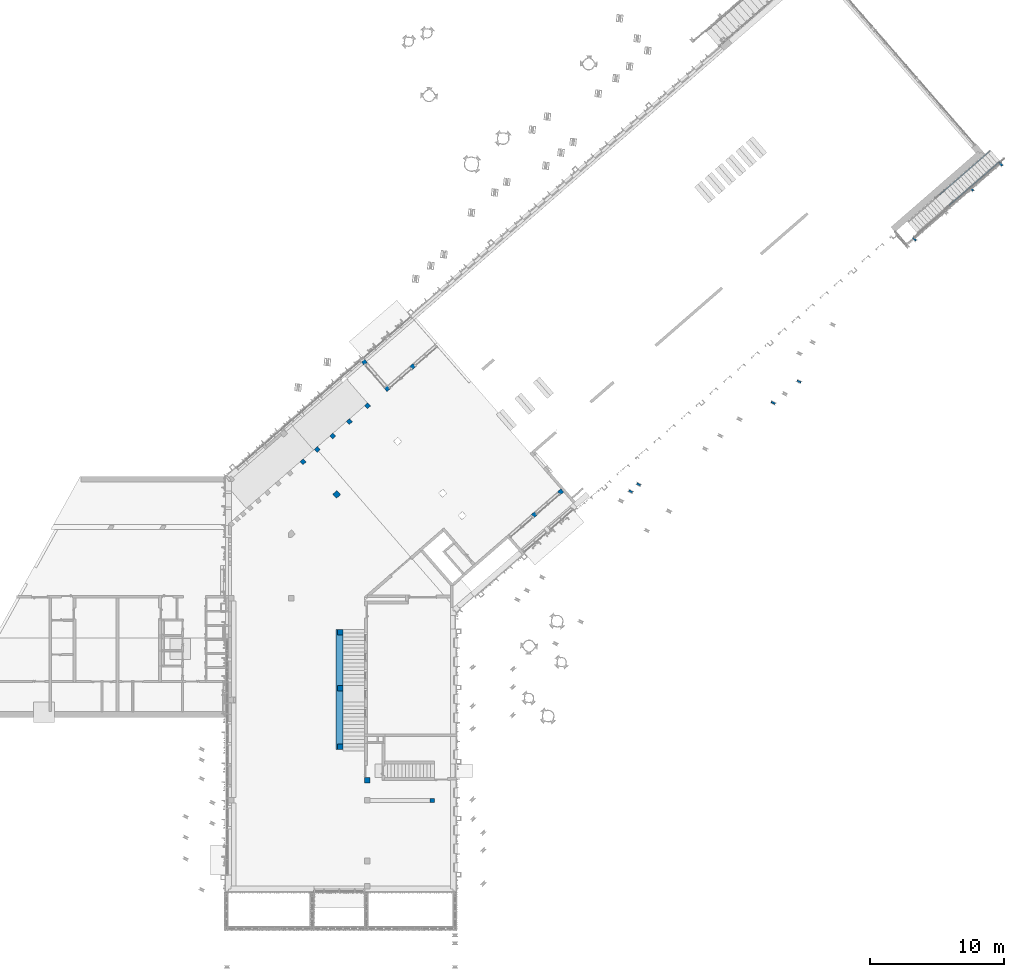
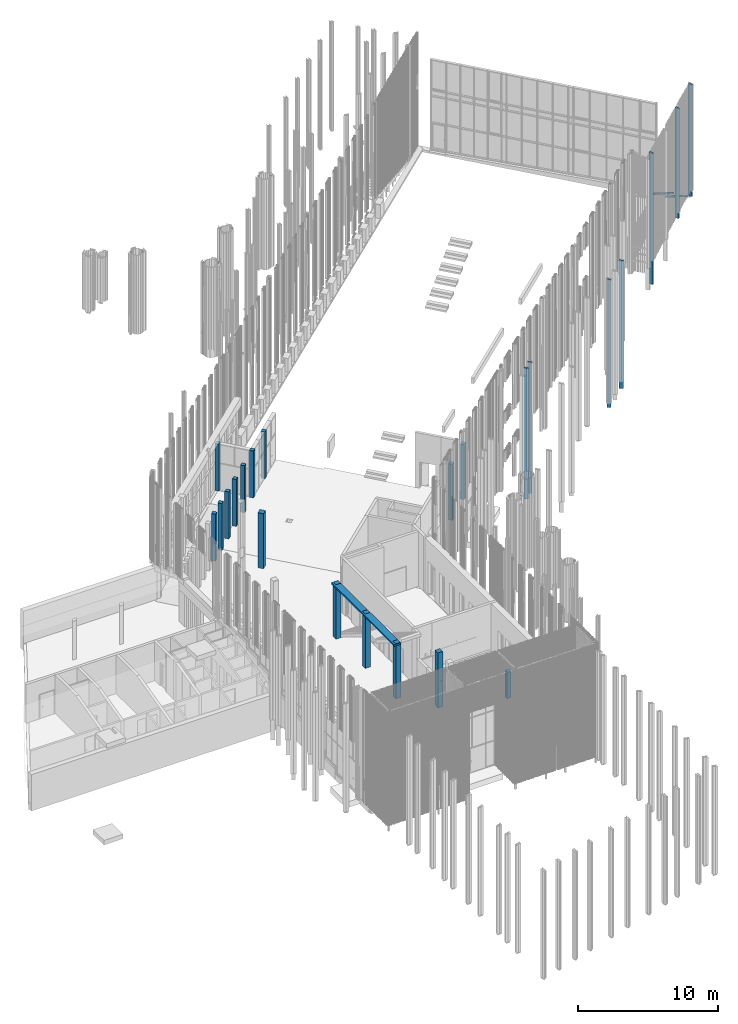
# One storey, part 77 of 390: 23 columns, 3 beams.
"""IFC2X3 building model written with IfcOpenShell, lengths in millimetres."""

from ifc_helpers import new_model, entity, si_unit, converted_unit, derived_unit, money_unit, direction, frame, origin_with_axes, place, context, subcontext, project, spatial, faceted_brep, material, material_list, type_object, element, save


model = new_model("IFC2X3")

# Units and contexts
model_context = context("Model", 3, precision=1e-05, world=origin_with_axes(), true_north=direction((0.0, 1.0)))
body_context = subcontext(model_context, "Body", "Model", "MODEL_VIEW")
ifc_project = project(units=[si_unit("LENGTHUNIT", "METRE", prefix="MILLI"), si_unit("AREAUNIT", "SQUARE_METRE"), si_unit("VOLUMEUNIT", "CUBIC_METRE"), converted_unit("PLANEANGLEUNIT", "DEGREE", entity("IfcPlaneAngleMeasure", 0.0174532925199), si_unit("PLANEANGLEUNIT", "RADIAN"), dimensions=[0, 0, 0, 0, 0, 0, 0]), si_unit("SOLIDANGLEUNIT", "STERADIAN"), money_unit("EUR"), converted_unit("TIMEUNIT", "Year", entity("IfcTimeMeasure", 31556926.0), si_unit("TIMEUNIT", "SECOND"), dimensions=[0, 0, 1, 0, 0, 0, 0]), si_unit("MASSUNIT", "GRAM", prefix="KILO"), si_unit("THERMODYNAMICTEMPERATUREUNIT", "DEGREE_CELSIUS"), si_unit("LUMINOUSINTENSITYUNIT", "LUMEN"), si_unit("ENERGYUNIT", "JOULE", prefix="MEGA"), derived_unit("THERMALCONDUCTANCEUNIT", [(si_unit("POWERUNIT", "WATT"), 1), (si_unit("LENGTHUNIT", "METRE"), -1), (si_unit("THERMODYNAMICTEMPERATUREUNIT", "KELVIN"), -1)]), derived_unit("SPECIFICHEATCAPACITYUNIT", [(si_unit("ENERGYUNIT", "JOULE"), 1), (si_unit("MASSUNIT", "GRAM", prefix="KILO"), -1), (si_unit("THERMODYNAMICTEMPERATUREUNIT", "KELVIN"), -1)]), derived_unit("MASSDENSITYUNIT", [(si_unit("MASSUNIT", "GRAM", prefix="KILO"), 1), (si_unit("VOLUMEUNIT", "CUBIC_METRE"), -1)])], contexts=[model_context])

# Site, building, storey
site_placement = place(None, origin_with_axes())
site = spatial("IfcSite", under=ifc_project, at=site_placement, Name="Site", CompositionType="ELEMENT")
building_placement = place(site_placement, origin_with_axes())
building = spatial("IfcBuilding", under=site, at=building_placement, Name="Building", CompositionType="ELEMENT")
storey_placement = place(building_placement, origin_with_axes())
storey = spatial("IfcBuildingStorey", under=building, at=storey_placement, Name="1 korrus", CompositionType="ELEMENT", Elevation=0.0)

# Columns
ifc_material_1 = material(Name="Betoon - Konstuktsioon")
ifc_material_2 = material(Name="Krohv - Lubjakivi")
ifc_material_list_1 = material_list([ifc_material_1, ifc_material_2])
column_type_1 = type_object("IfcColumnType", Name="Post", PredefinedType="NOTDEFINED")
column_1_placement = place(storey_placement, frame((132867.171022, 84923.9295875, 0.0), z_axis=(0.0, 0.0, 1.0), x_axis=(0.65605902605, -0.754709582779, 0.0)))
element("IfcColumn", 1, at=column_1_placement, inside=storey, type_object=column_type_1, material=ifc_material_list_1, Name="Betoon - Konstuktsioon", ObjectType="Betoon - Konstuktsioon 300 x 300", context=body_context, shape_type="Brep", body=[
    faceted_brep([(-150.0, -150.0, 0.0), (150.0, -150.0, 0.0), (150.0, -150.0, 4100.0), (-150.0, -150.0, 4100.0), (-150.0, 150.0, 0.0), (150.0, 150.0, 0.0), (150.0, 150.0, 4100.0), (-150.0, 150.0, 4100.0)], [[[0, 1, 2, 3]], [[0, 4, 5, 1]], [[1, 5, 6, 2]], [[3, 2, 6, 7]], [[4, 0, 3, 7]], [[5, 4, 7, 6]]]),
    faceted_brep([(-160.0, -160.0, 0.0), (160.0, -160.0, 0.0), (160.0, -160.0, 4100.0), (-160.0, -160.0, 4100.0), (-160.0, 160.0, 0.0), (160.0, 160.0, 0.0), (-150.0, -150.0, 0.0), (150.0, -150.0, 0.0), (150.0, 150.0, 0.0), (-150.0, 150.0, 0.0), (160.0, 160.0, 4100.0), (-160.0, 160.0, 4100.0), (-150.0, -150.0, 4100.0), (-150.0, 150.0, 4100.0), (150.0, 150.0, 4100.0), (150.0, -150.0, 4100.0)], [[[0, 1, 2, 3]], [[0, 4, 5, 1], [6, 7, 8, 9]], [[1, 5, 10, 2]], [[3, 2, 10, 11], [12, 13, 14, 15]], [[4, 0, 3, 11]], [[5, 4, 11, 10]], [[7, 6, 12, 15]], [[8, 7, 15, 14]], [[9, 8, 14, 13]], [[6, 9, 13, 12]]]),
])
column_2_placement = place(storey_placement, frame((131069.999995, 60550.0000176, -20.0), z_axis=(0.0, 0.0, 1.0), x_axis=(1.0, -8.97950352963e-09, 0.0)))
element("IfcColumn", 2, at=column_2_placement, inside=storey, type_object=column_type_1, material=ifc_material_list_1, Name="Betoon - Konstuktsioon", ObjectType="Betoon - Konstuktsioon 400 x 400", context=body_context, shape_type="Brep", body=[
    faceted_brep([(-199.999998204, -200.000001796, 0.0), (200.000001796, -199.999998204, 0.0), (200.000001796, -199.999998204, 4765.0), (-199.999998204, -200.000001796, 4765.0), (-200.000001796, 199.999998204, 0.0), (199.999998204, 200.000001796, 0.0), (199.999998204, 200.000001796, 4765.0), (-200.000001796, 199.999998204, 4765.0)], [[[0, 1, 2, 3]], [[0, 4, 5, 1]], [[1, 5, 6, 2]], [[3, 2, 6, 7]], [[4, 0, 3, 7]], [[5, 4, 7, 6]]]),
    faceted_brep([(200.000001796, -199.999998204, 4624.99999821), (199.999998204, 200.000001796, 4624.99999821), (199.999998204, 200.000001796, 0.0), (200.000001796, -199.999998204, 0.0), (209.999963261, -209.999998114, 4624.99999821), (209.999963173, 210.000001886, 4624.99999821), (-210.000001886, 209.999998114, 4624.99999821), (-209.999998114, -210.000001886, 4624.99999821), (-200.000001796, 199.999998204, 4624.99999821), (-199.999998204, -200.000001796, 4624.99999821), (-200.000001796, 199.999998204, 0.0), (209.999998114, 210.000001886, 0.0), (210.000001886, -209.999998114, 0.0), (-209.999998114, -210.000001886, 0.0), (-210.000001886, 209.999998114, 0.0), (-199.999998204, -200.000001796, 0.0)], [[[0, 1, 2, 3]], [[4, 5, 6, 7], [8, 1, 0, 9]], [[1, 8, 10, 2]], [[11, 12, 13, 14], [2, 10, 15, 3]], [[9, 0, 3, 15]], [[5, 4, 12, 11]], [[6, 5, 11, 14]], [[7, 6, 14, 13]], [[4, 7, 13, 12]], [[8, 9, 15, 10]]]),
])
column_3_placement = place(storey_placement, frame((131069.999918, 56190.0000161, -20.0), z_axis=(0.0, 0.0, 1.0), x_axis=(1.0, -8.97950352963e-09, 0.0)))
element("IfcColumn", 3, at=column_3_placement, inside=storey, type_object=column_type_1, material=ifc_material_list_1, Name="Betoon - Konstuktsioon", ObjectType="Betoon - Konstuktsioon 400 x 400", context=body_context, shape_type="Brep", body=[
    faceted_brep([(-199.999998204, -200.000001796, 0.0), (200.000001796, -199.999998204, 0.0), (200.000001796, -199.999998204, 4800.0), (-199.999998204, -200.000001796, 4800.0), (-200.000001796, 199.999998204, 0.0), (199.999998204, 200.000001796, 0.0), (199.999998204, 200.000001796, 4800.0), (-200.000001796, 199.999998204, 4800.0)], [[[0, 1, 2, 3]], [[0, 4, 5, 1]], [[1, 5, 6, 2]], [[3, 2, 6, 7]], [[4, 0, 3, 7]], [[5, 4, 7, 6]]]),
    faceted_brep([(200.000001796, -199.999998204, 4624.99999821), (199.999998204, 200.000001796, 4624.99999821), (199.999998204, 200.000001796, 0.0), (200.000001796, -199.999998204, 0.0), (210.000001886, -210.000002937, 4624.99999821), (210.000001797, 210.000001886, 4624.99999821), (-210.000001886, 209.999998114, 4624.99999821), (-209.999998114, -210.000003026, 4624.99999821), (-200.000001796, 199.999998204, 4624.99999821), (-199.999998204, -200.000001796, 4624.99999821), (-200.000001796, 199.999998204, 0.0), (209.999998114, 210.000001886, 0.0), (210.000001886, -209.999998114, 0.0), (-209.999998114, -210.000001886, 0.0), (-210.000001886, 209.999998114, 0.0), (-199.999998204, -200.000001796, 0.0)], [[[0, 1, 2, 3]], [[4, 5, 6, 7], [8, 1, 0, 9]], [[1, 8, 10, 2]], [[11, 12, 13, 14], [2, 10, 15, 3]], [[9, 0, 3, 15]], [[5, 4, 12, 11]], [[6, 5, 11, 14]], [[7, 6, 14, 13]], [[4, 7, 13, 12]], [[8, 9, 15, 10]]]),
])
column_4_placement = place(storey_placement, frame((131069.999995, 64750.0000176, -20.0), z_axis=(0.0, 0.0, 1.0), x_axis=(1.0, -8.97950352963e-09, 0.0)))
element("IfcColumn", 4, at=column_4_placement, inside=storey, type_object=column_type_1, material=ifc_material_list_1, Name="Betoon - Konstuktsioon", ObjectType="Betoon - Konstuktsioon 400 x 400", context=body_context, shape_type="Brep", body=[
    faceted_brep([(-199.999998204, -200.000001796, 0.0), (200.000001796, -199.999998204, 0.0), (200.000001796, -199.999998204, 4764.99999821), (-199.999998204, -200.000001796, 4764.99999821), (-200.000001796, 199.999998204, 0.0), (199.999998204, 200.000001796, 0.0), (199.999998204, 200.000001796, 4764.99999821), (-200.000001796, 199.999998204, 4764.99999821)], [[[0, 1, 2, 3]], [[0, 4, 5, 1]], [[1, 5, 6, 2]], [[3, 2, 6, 7]], [[4, 0, 3, 7]], [[5, 4, 7, 6]]]),
    faceted_brep([(200.000001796, -199.999998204, 4624.99999821), (199.999998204, 200.000001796, 4624.99999821), (199.999998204, 200.000001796, 0.0), (200.000001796, -199.999998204, 0.0), (210.000000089, -209.999998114, 4624.99999821), (210.0, 210.000000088, 4624.99999821), (-210.000001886, 210.0, 4624.99999821), (-209.999998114, -210.000001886, 4624.99999821), (-200.000001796, 199.999998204, 4624.99999821), (-199.999998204, -200.000001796, 4624.99999821), (-200.000001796, 199.999998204, 0.0), (210.000001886, -209.999998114, 0.0), (-209.999998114, -210.000001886, 0.0), (-210.000001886, 209.999998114, 0.0), (209.999998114, 210.000001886, 0.0), (-199.999998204, -200.000001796, 0.0)], [[[0, 1, 2, 3]], [[4, 5, 6, 7], [8, 1, 0, 9]], [[1, 8, 10, 2]], [[11, 12, 13, 14], [10, 15, 3, 2]], [[9, 0, 3, 15]], [[5, 4, 11, 14]], [[6, 5, 14, 13]], [[7, 6, 13, 12]], [[4, 7, 12, 11]], [[8, 9, 15, 10]]]),
])
column_5_placement = place(storey_placement, frame((147542.139778, 75248.2153569, 0.0), z_axis=(0.0, 0.0, 1.0), x_axis=(0.65605902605, -0.754709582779, 0.0)))
element("IfcColumn", 5, at=column_5_placement, inside=storey, type_object=column_type_1, material=ifc_material_list_1, Name="Betoon - Konstuktsioon", ObjectType="Betoon - Konstuktsioon 300 x 325", context=body_context, shape_type="Brep", body=[
    faceted_brep([(-150.0, -162.5, 0.0), (150.0, -162.5, 0.0), (150.0, -162.5, 4800.0), (-150.0, -162.5, 4800.0), (-150.0, 162.5, 0.0), (150.0, 162.5, 0.0), (150.0, 162.5, 4800.0), (-150.0, 162.5, 4800.0)], [[[0, 1, 2, 3]], [[0, 4, 5, 1]], [[1, 5, 6, 2]], [[3, 2, 6, 7]], [[4, 0, 3, 7]], [[5, 4, 7, 6]]]),
    faceted_brep([(-150.0, -162.5, 0.0), (-150.0, 162.500111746, 0.0), (-150.0, 162.500111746, 4800.0), (-150.0, -162.5, 4800.0), (150.0, -162.5, 0.0), (150.0, 162.500112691, 0.0), (160.0, 162.500112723, 0.0), (160.0, -172.5, 0.0), (-160.0, -172.5, 0.0), (-160.0, 162.500111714, 0.0), (-160.0, 162.500111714, 4800.0), (160.0, -172.5, 4800.0), (160.0, 162.500112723, 4800.0), (150.0, 162.500112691, 4800.0), (150.0, -162.5, 4800.0), (-160.0, -172.5, 4800.0)], [[[0, 1, 2, 3]], [[4, 5, 6, 7, 8, 9, 1, 0]], [[9, 10, 2, 1]], [[11, 12, 13, 14, 3, 2, 10, 15]], [[3, 14, 4, 0]], [[14, 13, 5, 4]], [[5, 13, 12, 6]], [[7, 6, 12, 11]], [[11, 15, 8, 7]], [[15, 10, 9, 8]]]),
])
column_6_placement = place(storey_placement, frame((130791.570373, 75050.3080309, -20.0), z_axis=(0.0, 0.0, 1.0), x_axis=(0.65605902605, -0.754709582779, 0.0)))
element("IfcColumn", 6, at=column_6_placement, inside=storey, type_object=column_type_1, material=ifc_material_list_1, Name="Betoon - Konstuktsioon", ObjectType="Betoon - Konstuktsioon 400 x 400", context=body_context, shape_type="Brep", body=[
    faceted_brep([(-200.0, -200.0, 0.0), (200.0, -200.0, 0.0), (200.0, -200.0, 4820.0), (-200.0, -200.0, 4820.0), (-200.0, 200.0, 0.0), (200.0, 200.0, 0.0), (200.0, 200.0, 4820.0), (-200.0, 200.0, 4820.0)], [[[0, 1, 2, 3]], [[0, 4, 5, 1]], [[1, 5, 6, 2]], [[3, 2, 6, 7]], [[4, 0, 3, 7]], [[5, 4, 7, 6]]]),
    faceted_brep([(-210.0, -210.0, 4820.0), (-210.0, -210.0, 0.0), (210.0, -210.0, 0.0), (210.0, -210.0, 4820.0), (-210.0, 210.0, 4820.0), (-210.0, 210.0, 0.0), (210.0, 210.0, 0.0), (-200.0, 200.0, 0.0), (-200.0, -200.0, 0.0), (200.0, -200.0, 0.0), (200.0, 200.0, 0.0), (210.0, 210.0, 4820.0), (200.0, -200.0, 4820.0), (-200.0, -200.0, 4820.0), (-200.0, 200.0, 4820.0), (200.0, 200.0, 4820.0)], [[[0, 1, 2, 3]], [[4, 5, 1, 0]], [[2, 1, 5, 6], [7, 8, 9, 10]], [[3, 2, 6, 11]], [[4, 0, 3, 11], [12, 13, 14, 15]], [[11, 6, 5, 4]], [[13, 8, 7, 14]], [[12, 9, 8, 13]], [[15, 10, 9, 12]], [[14, 7, 10, 15]]]),
])
column_7_placement = place(storey_placement, frame((137930.0, 52170.000007, -20.0), z_axis=(0.0, 0.0, 1.0), x_axis=(1.0, -8.97950352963e-09, 0.0)))
element("IfcColumn", 7, at=column_7_placement, inside=storey, type_object=column_type_1, material=ifc_material_list_1, Name="Betoon - Konstuktsioon", ObjectType="Betoon - Konstuktsioon 300 x 300", context=body_context, shape_type="Brep", body=[
    faceted_brep([(-149.999998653, -150.000001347, 0.0), (150.000001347, -149.999998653, 0.0), (150.000001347, -149.999998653, 2320.0), (-149.999998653, -150.000001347, 2320.0), (-150.000001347, 149.999998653, 0.0), (149.999998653, 150.000001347, 0.0), (149.999998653, 150.000001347, 2320.0), (-150.000001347, 149.999998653, 2320.0)], [[[0, 1, 2, 3]], [[0, 4, 5, 1]], [[1, 5, 6, 2]], [[3, 2, 6, 7]], [[4, 0, 3, 7]], [[5, 4, 7, 6]]]),
    faceted_brep([(-160.000001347, 149.99999991, 2300.0), (-150.0000027, 150.0, 2300.0), (149.99999592, 150.000001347, 2300.0), (149.999995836, 160.000001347, 2300.0), (-160.000001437, 159.999998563, 2300.0), (-150.0000027, 150.0, 2020.0), (-160.000001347, 149.99999991, 2020.0), (-150.000001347, 149.999998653, 0.0), (149.999998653, 150.000001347, 0.0), (149.99999592, 150.000001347, 2320.0), (149.999995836, 160.000001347, 2320.0), (-160.000001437, 159.999998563, 0.0), (159.999998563, 160.000001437, 2320.0), (159.999998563, 160.000001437, 0.0), (-159.999998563, -160.000001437, 0.0), (-159.999998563, -160.000001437, 2300.0), (-159.999998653, -150.00000009, 2300.0), (-159.999998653, -150.00000009, 2020.0), (-150.0, -150.0, 2020.0), (-149.999998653, -150.000001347, 0.0), (160.000001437, -159.999998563, 0.0), (150.000001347, -149.999998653, 0.0), (149.999998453, -149.999998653, 2320.0), (149.999998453, -149.999998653, 2300.0), (149.999998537, -159.999998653, 2320.0), (160.000001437, -159.999998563, 2320.0), (149.999998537, -159.999998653, 2300.0), (-150.0, -150.0, 2300.0)], [[[0, 1, 2, 3, 4]], [[5, 1, 0, 6]], [[1, 5, 7, 8, 2]], [[2, 9, 10, 3]], [[11, 4, 3, 10, 12, 13]], [[6, 0, 4, 11, 14, 15, 16, 17]], [[18, 5, 6, 17]], [[5, 18, 19, 7]], [[13, 20, 14, 11], [8, 7, 19, 21]], [[22, 9, 2, 8, 21, 23]], [[12, 10, 9, 22, 24, 25]], [[12, 25, 20, 13]], [[24, 26, 15, 14, 20, 25]], [[27, 16, 15, 26, 23]], [[16, 27, 18, 17]], [[18, 27, 23, 21, 19]], [[26, 24, 22, 23]]]),
])
ifc_material_list_2 = material_list([ifc_material_1, ifc_material_2, ifc_material_2, ifc_material_2])
column_8_placement = place(storey_placement, frame((133089.999991, 53680.0000125, -20.0), z_axis=(0.0, 0.0, 1.0), x_axis=(1.0, -8.97950352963e-09, 0.0)))
element("IfcColumn", 8, at=column_8_placement, inside=storey, type_object=column_type_1, material=ifc_material_list_2, Name="Betoon - Konstuktsioon", ObjectType="Betoon - Konstuktsioon 400 x 400", context=body_context, shape_type="Brep", body=[
    faceted_brep([(-199.999998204, -200.000001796, 0.0), (200.000001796, -199.999998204, 0.0), (200.000001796, -199.999998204, 4820.0), (-199.999998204, -200.000001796, 4820.0), (-200.000001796, 199.999998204, 0.0), (199.999998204, 200.000001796, 0.0), (199.999998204, 200.000001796, 4820.0), (-200.000001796, 199.999998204, 4820.0)], [[[0, 1, 2, 3]], [[0, 4, 5, 1]], [[1, 5, 6, 2]], [[3, 2, 6, 7]], [[4, 0, 3, 7]], [[5, 4, 7, 6]]]),
    faceted_brep([(210.000001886, -209.999998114, 2500.0), (209.999999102, 99.9993776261, 2500.0), (209.999999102, 99.9993776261, 4820.0), (210.000001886, -209.999998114, 4820.0), (199.999999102, 99.9993775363, 2500.0), (-5.95454707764e-06, -210.0, 2500.0), (-6.05331251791e-06, -200.0, 2500.0), (200.000001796, -199.999998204, 2500.0), (199.999999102, 99.9993775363, 4820.0), (200.000001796, -199.999998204, 4820.0), (6.0135221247e-06, -200.0, 4820.0), (6.1033347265e-06, -210.0, 4820.0)], [[[0, 1, 2, 3]], [[4, 1, 0, 5, 6, 7]], [[1, 4, 8, 2]], [[3, 2, 8, 9, 10, 11]], [[5, 0, 3, 11]], [[6, 5, 11, 10]], [[7, 6, 10, 9]], [[4, 7, 9, 8]]]),
    faceted_brep([(-210.000001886, 209.999998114, 4765.0), (-199.999994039, 209.999991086, 4765.0), (-199.999991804, 209.999374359, 0.0), (-210.000001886, 209.999998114, 0.0), (-199.999993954, 199.999998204, 4765.0), (-209.999998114, -210.000001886, 4765.0), (-199.999990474, -210.000001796, 4765.0), (-199.999990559, -200.000001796, 4765.0), (-199.999991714, 199.999998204, 0.0), (199.999998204, 200.000001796, 0.0), (8.28597990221e-06, 200.0, 0.0), (8.19619572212e-06, 209.999376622, 0.0), (209.999998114, 210.000001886, 0.0), (210.000001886, -209.999998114, 0.0), (-209.999998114, -210.000001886, 0.0), (-199.999998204, -200.000001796, 0.0), (200.000001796, -199.999998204, 0.0), (210.000001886, -209.999998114, 2300.0), (-5.95454707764e-06, -210.0, 2300.0), (6.1033347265e-06, -210.0, 2120.0), (-199.999993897, -210.000001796, 2120.0), (-199.999993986, -200.000001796, 2120.0), (199.999998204, 199.999427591, 2300.0), (-1.00025658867e-05, 200.0, 2300.0), (-1.01012744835e-05, 209.999674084, 2300.0), (209.999998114, 210.000001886, 2300.0), (-6.05331251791e-06, -200.0, 2300.0), (200.000001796, -199.999998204, 2300.0), (6.0135221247e-06, -200.0, 2120.0)], [[[0, 1, 2, 3]], [[4, 1, 0, 5, 6, 7]], [[1, 4, 8, 2]], [[9, 10, 11, 12, 13, 14, 3, 2, 8, 15, 16]], [[5, 0, 3, 14]], [[6, 5, 14, 13, 17, 18, 19, 20]], [[7, 6, 20, 21]], [[4, 7, 21, 15, 8]], [[22, 23, 10, 9]], [[23, 24, 11, 10]], [[24, 25, 12, 11]], [[25, 17, 13, 12]], [[26, 27, 16, 15, 21, 28]], [[27, 22, 9, 16]], [[17, 25, 24, 23, 22, 27, 26, 18]], [[18, 26, 28, 19]], [[19, 28, 21, 20]]]),
    faceted_brep([(209.999998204, 199.999377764, 2500.0), (209.999998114, 210.000001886, 2500.0), (209.999998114, 210.000001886, 4820.0), (209.999998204, 199.999377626, 4820.0), (-1.01012744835e-05, 209.999699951, 2500.0), (199.999998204, 199.99937766, 2500.0), (-1.00025658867e-05, 200.0, 2500.0), (-7.86700695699e-05, 210.0, 4820.0), (-7.85802853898e-05, 200.0, 4820.0), (199.999998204, 199.999377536, 4820.0)], [[[0, 1, 2, 3]], [[4, 1, 0, 5, 6]], [[1, 4, 7, 2]], [[8, 9, 3, 2, 7]], [[5, 0, 3, 9]], [[6, 5, 9, 8]], [[4, 6, 8, 7]]]),
])
ifc_material_3 = material(Name="GENEERILINE - KONSTRUKTRIOON")
ifc_material_list_3 = material_list([ifc_material_3, ifc_material_2])
column_type_2 = type_object("IfcColumnType", Name="Post (C-profiiliga karkass; puitlaastplaat 12mm; mineraalkrohv 10mm)", PredefinedType="NOTDEFINED")
column_9_placement = place(storey_placement, frame((136474.792585, 84614.9534786, 0.0), z_axis=(0.0, 0.0, 1.0), x_axis=(0.65605902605, -0.754709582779, 0.0)))
element("IfcColumn", 9, at=column_9_placement, inside=storey, type_object=column_type_2, material=ifc_material_list_3, Name="GENEERILINE - KONSTRUKTRIOON", ObjectType="GENEERILINE - KONSTRUKTRIOON 300 x 300", context=body_context, shape_type="Brep", body=[
    faceted_brep([(-150.0, -150.0, 0.0), (150.0, -150.0, 0.0), (150.0, -150.0, 4100.0), (-150.0, -150.0, 4100.0), (-150.0, 150.0, 0.0), (150.0, 150.0, 0.0), (150.0, 150.0, 4100.0), (-150.0, 150.0, 4100.0)], [[[0, 1, 2, 3]], [[0, 4, 5, 1]], [[1, 5, 6, 2]], [[3, 2, 6, 7]], [[4, 0, 3, 7]], [[5, 4, 7, 6]]]),
    faceted_brep([(-160.0, -160.0, 0.0), (160.0, -160.0, 0.0), (160.0, -160.0, 4100.0), (-160.0, -160.0, 4100.0), (-160.0, 160.0, 0.0), (160.0, 160.0, 0.0), (-150.0, -150.0, 0.0), (150.0, -150.0, 0.0), (150.0, 150.0, 0.0), (-150.0, 150.0, 0.0), (160.0, 160.0, 4100.0), (-160.0, 160.0, 4100.0), (-150.0, -150.0, 4100.0), (-150.0, 150.0, 4100.0), (150.0, 150.0, 4100.0), (150.0, -150.0, 4100.0)], [[[0, 1, 2, 3]], [[0, 4, 5, 1], [6, 7, 8, 9]], [[1, 5, 10, 2]], [[3, 2, 10, 11], [12, 13, 14, 15]], [[4, 0, 3, 11]], [[5, 4, 11, 10]], [[7, 6, 12, 15]], [[8, 7, 15, 14]], [[9, 8, 14, 13]], [[6, 9, 13, 12]]]),
])
column_10_placement = place(storey_placement, frame((145570.461001, 73534.2611448, -150.0), z_axis=(0.0, 0.0, 1.0), x_axis=(0.65605902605, -0.754709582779, 0.0)))
element("IfcColumn", 10, at=column_10_placement, inside=storey, type_object=column_type_2, material=ifc_material_list_3, Name="GENEERILINE - KONSTRUKTRIOON", ObjectType="GENEERILINE - KONSTRUKTRIOON 300 x 300", context=body_context, shape_type="Brep", body=[
    faceted_brep([(150.0, -150.0, 50.0), (-150.0, -150.0, 50.0), (-150.0, 150.0, 50.0), (150.0, 150.0, 50.0), (150.0, -150.0, 4950.0), (-150.0, -150.0, 4950.0), (-150.0, 150.0, 4950.0), (150.0, 150.0, 4950.0)], [[[0, 1, 2, 3]], [[1, 0, 4, 5]], [[2, 1, 5, 6]], [[2, 6, 7, 3]], [[0, 3, 7, 4]], [[7, 6, 5, 4]]]),
    faceted_brep([(160.0, 160.0, 50.0), (160.0, -160.0, 50.0), (-160.0, -160.0, 50.0), (-160.0, 160.0, 50.0), (-150.0, 150.0, 50.0), (-150.0, -150.0, 50.0), (150.0, -150.0, 50.0), (150.0, 150.0, 50.0), (160.0, 160.0, 4950.0), (160.0, -160.0, 4950.0), (-160.0, -160.0, 4950.0), (-160.0, 160.0, 4950.0), (-150.0, 150.0, 4950.0), (-150.0, -150.0, 4950.0), (150.0, -150.0, 4950.0), (150.0, 150.0, 4950.0)], [[[0, 1, 2, 3], [4, 5, 6, 7]], [[1, 0, 8, 9]], [[2, 1, 9, 10]], [[3, 2, 10, 11]], [[0, 3, 11, 8]], [[5, 4, 12, 13]], [[5, 13, 14, 6]], [[7, 6, 14, 15]], [[4, 7, 15, 12]], [[11, 10, 9, 8], [14, 13, 12, 15]]]),
])
for number, where, z_axis, x_axis in (
    (11, (134572.924443, 82961.6847257, 0.0), (0.0, 0.0, 1.0), (0.65605902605, -0.754709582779, 0.0)),
    (12, (128278.626738, 77490.1352049, 0.0), (0.0, 0.0, 1.0), (0.65605902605, -0.754709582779, 0.0)),
    (13, (129342.767247, 78415.1784352, 0.0), (0.0, 0.0, 1.0), (0.65605902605, -0.754709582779, 0.0)),
    (14, (130497.472905, 79418.948749, 0.0), (0.0, 0.0, 1.0), (0.65605902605, -0.754709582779, 0.0)),
    (15, (131742.743713, 80501.4461463, 0.0), (0.0, 0.0, 1.0), (0.65605902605, -0.754709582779, 0.0)),
    (16, (133101.318829, 81682.4374523, 0.0), (0.0, 0.0, 1.0), (0.65605902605, -0.754709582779, 0.0)),
):
    element("IfcColumn", number, at=place(storey_placement, frame(where, z_axis=z_axis, x_axis=x_axis)), inside=storey, type_object=column_type_2, material=ifc_material_list_3, Name="GENEERILINE - KONSTRUKTRIOON", ObjectType="GENEERILINE - KONSTRUKTRIOON 300 x 300", context=body_context, shape_type="Brep", body=[
        faceted_brep([(-150.0, -150.0, 0.0), (150.0, -150.0, 0.0), (150.0, -150.0, 4100.0), (-150.0, -150.0, 4100.0), (-150.0, 150.0, 0.0), (150.0, 150.0, 0.0), (150.0, 150.0, 4100.0), (-150.0, 150.0, 4100.0)], [[[0, 1, 2, 3]], [[0, 4, 5, 1]], [[1, 5, 6, 2]], [[3, 2, 6, 7]], [[4, 0, 3, 7]], [[5, 4, 7, 6]]]),
        faceted_brep([(-160.0, -160.0, 0.0), (160.0, -160.0, 0.0), (160.0, -160.0, 4100.0), (-160.0, -160.0, 4100.0), (-160.0, 160.0, 0.0), (160.0, 160.0, 0.0), (-150.0, -150.0, 0.0), (150.0, -150.0, 0.0), (150.0, 150.0, 0.0), (-150.0, 150.0, 0.0), (160.0, 160.0, 4100.0), (-160.0, 160.0, 4100.0), (-150.0, -150.0, 4100.0), (-150.0, 150.0, 4100.0), (150.0, 150.0, 4100.0), (150.0, -150.0, 4100.0)], [[[0, 1, 2, 3]], [[0, 4, 5, 1], [6, 7, 8, 9]], [[1, 5, 10, 2]], [[3, 2, 10, 11], [12, 13, 14, 15]], [[4, 0, 3, 11]], [[5, 4, 11, 10]], [[7, 6, 12, 15]], [[8, 7, 15, 14]], [[9, 8, 14, 13]], [[6, 9, 13, 12]]]),
    ])
ifc_material_4 = material(Name="Teras (musta värvi)")
column_type_3 = type_object("IfcColumnType", Name="Päikesevarjestuspost", PredefinedType="NOTDEFINED")
column_11_placement = place(storey_placement, frame((-20993.9622234, 108194.409926, 266.076951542), z_axis=(0.0, 0.0, 1.0), x_axis=(-0.829037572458, -0.559192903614, 0.0)))
element("IfcColumn", 17, at=column_11_placement, inside=storey, type_object=column_type_3, material=ifc_material_4, Name="Teras (musta värvi)", ObjectType="Teras (musta värvi)", context=body_context, shape_type="Brep", body=[
    faceted_brep([(-162387.469125, 119787.263012, -266.076951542), (-162350.908322, 119489.499166, -266.076951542), (-162350.908322, 119489.499166, 9545.0), (-162387.469125, 119787.263012, 9464.61524227), (-162238.587202, 119805.543413, -266.076951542), (-162202.026399, 119507.779568, -266.076951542), (-162202.026399, 119507.779568, 9545.0), (-162238.587202, 119805.543413, 9464.61524227)], [[[0, 1, 2, 3]], [[1, 0, 4, 5]], [[1, 5, 6, 2]], [[3, 2, 6, 7]], [[0, 3, 7, 4]], [[6, 5, 4, 7]]]),
])
column_12_placement = place(storey_placement, frame((96450.4417585, 269227.421279, 0.0), z_axis=(0.0, 0.0, 1.0), x_axis=(-0.342020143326, -0.939692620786, 0.0)))
element("IfcColumn", 18, at=column_12_placement, inside=storey, type_object=column_type_3, material=ifc_material_4, Name="Teras (musta värvi)", ObjectType="Teras (musta värvi)", context=body_context, shape_type="Brep", body=[
    faceted_brep([(162202.026399, 119507.779568, 9545.0), (162202.026399, 119507.779568, -1911.38852315), (162350.908322, 119489.499166, -1911.38852315), (162350.908322, 119489.499166, 9545.0), (162238.587202, 119805.543413, 9464.61524227), (162238.587202, 119805.543413, -1911.38852315), (162387.469125, 119787.263012, -1911.38852315), (162387.469125, 119787.263012, 9464.61524227)], [[[0, 1, 2, 3]], [[1, 0, 4, 5]], [[1, 5, 6, 2]], [[3, 2, 6, 7]], [[4, 0, 3, 7]], [[5, 4, 7, 6]]]),
])
column_13_placement = place(storey_placement, frame((106517.190947, 275328.286855, 0.0), z_axis=(0.0, 0.0, 1.0), x_axis=(-0.342020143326, -0.939692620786, 0.0)))
element("IfcColumn", 19, at=column_13_placement, inside=storey, type_object=column_type_3, material=ifc_material_4, Name="Teras (musta värvi)", ObjectType="Teras (musta värvi)", context=body_context, shape_type="Brep", body=[
    faceted_brep([(162202.026399, 119507.779568, 9545.0), (162202.026399, 119507.779568, -1658.72846652), (162350.908322, 119489.499166, -1658.72846652), (162350.908322, 119489.499166, 9545.0), (162238.587202, 119805.543413, 9464.61524227), (162238.587202, 119805.543413, -1658.72846652), (162387.469125, 119787.263012, -1658.72846652), (162387.469125, 119787.263012, 9464.61524227)], [[[0, 1, 2, 3]], [[1, 0, 4, 5]], [[1, 5, 6, 2]], [[3, 2, 6, 7]], [[4, 0, 3, 7]], [[5, 4, 7, 6]]]),
])
column_14_placement = place(storey_placement, frame((108442.672336, 276923.906613, 0.0), z_axis=(0.0, 0.0, 1.0), x_axis=(-0.342020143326, -0.939692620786, 0.0)))
element("IfcColumn", 20, at=column_14_placement, inside=storey, type_object=column_type_3, material=ifc_material_4, Name="Teras (musta värvi)", ObjectType="Teras (musta värvi)", context=body_context, shape_type="Brep", body=[
    faceted_brep([(162202.026399, 119507.779568, 9545.0), (162202.026399, 119507.779568, -1615.0), (162350.908322, 119489.499166, -1615.0), (162350.908322, 119489.499166, 9545.0), (162238.587202, 119805.543413, 9464.61524227), (162238.587202, 119805.543413, -1615.0), (162387.469125, 119787.263012, -1615.0), (162387.469125, 119787.263012, 9464.61524227)], [[[0, 1, 2, 3]], [[1, 0, 4, 5]], [[1, 5, 6, 2]], [[3, 2, 6, 7]], [[4, 0, 3, 7]], [[5, 4, 7, 6]]]),
])
column_15_placement = place(storey_placement, frame((95846.6740944, 268702.574055, 0.0), z_axis=(0.0, 0.0, 1.0), x_axis=(-0.342020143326, -0.939692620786, 0.0)))
element("IfcColumn", 21, at=column_15_placement, inside=storey, type_object=column_type_3, material=ifc_material_4, Name="Teras (musta värvi)", ObjectType="Teras (musta värvi)", context=body_context, shape_type="Brep", body=[
    faceted_brep([(162202.026399, 119507.779568, 9545.0), (162202.026399, 119507.779568, -1864.91667985), (162350.908322, 119489.499166, -1864.91667985), (162350.908322, 119489.499166, 9545.0), (162238.587202, 119805.543413, 9464.61524227), (162238.587202, 119805.543413, -1864.91667985), (162387.469125, 119787.263012, -1864.91667985), (162387.469125, 119787.263012, 9464.61524227)], [[[0, 1, 2, 3]], [[1, 0, 4, 5]], [[1, 5, 6, 2]], [[3, 2, 6, 7]], [[4, 0, 3, 7]], [[5, 4, 7, 6]]]),
])
column_16_placement = place(storey_placement, frame((-27446.7298553, 102585.106057, -53.9230484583), z_axis=(0.0, 0.0, 1.0), x_axis=(-0.829037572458, -0.559192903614, 0.0)))
element("IfcColumn", 22, at=column_16_placement, inside=storey, type_object=column_type_3, material=ifc_material_4, Name="Teras (musta värvi)", ObjectType="Teras (musta värvi)", context=body_context, shape_type="Brep", body=[
    faceted_brep([(-162387.469125, 119787.263012, -1961.07695154), (-162350.908322, 119489.499166, -1961.07695154), (-162350.908322, 119489.499166, 9545.0), (-162387.469125, 119787.263012, 9464.61524227), (-162238.587202, 119805.543413, -1961.07695154), (-162202.026399, 119507.779568, -1961.07695154), (-162202.026399, 119507.779568, 9545.0), (-162238.587202, 119805.543413, 9464.61524227)], [[[0, 1, 2, 3]], [[1, 0, 4, 5]], [[1, 5, 6, 2]], [[3, 2, 6, 7]], [[0, 3, 7, 4]], [[6, 5, 4, 7]]]),
])
column_17_placement = place(storey_placement, frame((-23163.7531655, 106308.241253, 96.0769515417), z_axis=(0.0, 0.0, 1.0), x_axis=(-0.829037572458, -0.559192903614, 0.0)))
element("IfcColumn", 23, at=column_17_placement, inside=storey, type_object=column_type_3, material=ifc_material_4, Name="Teras (musta värvi)", ObjectType="Teras (musta värvi)", context=body_context, shape_type="Brep", body=[
    faceted_brep([(-162387.469125, 119787.263012, -96.0769515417), (-162350.908322, 119489.499166, -96.0769515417), (-162350.908322, 119489.499166, 9545.0), (-162387.469125, 119787.263012, 9464.61524227), (-162238.587202, 119805.543413, -96.0769515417), (-162202.026399, 119507.779568, -96.0769515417), (-162202.026399, 119507.779568, 85.7128870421), (-162202.026399, 119507.779568, 9545.0), (-162238.587202, 119805.543413, 9464.61524227)], [[[0, 1, 2, 3]], [[1, 0, 4, 5]], [[1, 5, 6, 7, 2]], [[3, 2, 7, 8]], [[0, 3, 8, 4]], [[6, 5, 4, 8, 7]]]),
])

# Beams
beam_type_1 = type_object("IfcBeamType", Name="Tala", PredefinedType="NOTDEFINED")
beam_1_placement = place(storey_placement, frame((130859.999997, 64960.0000195, 4744.99999821), z_axis=(0.0, 0.0, 1.0), x_axis=(-1.0, 8.7684360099e-09, 0.0)))
element("IfcBeam", 24, at=beam_1_placement, inside=storey, type_object=beam_type_1, material=ifc_material_1, Name="Betoon - Konstuktsioon", ObjectType="Betoon - Konstuktsioon 550 x 140", context=body_context, shape_type="Brep", body=[
    faceted_brep([(-420.0, 0.0, -140.0), (-420.0, 8980.0000046, -140.0), (130.0, 8980.0000046, -140.0), (130.0, 0.0, -140.0), (-10.0000385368, 4610.0000018, -140.0), (-410.000038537, 4609.99999829, -140.0), (-410.000035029, 4209.99999829, -140.0), (-10.0000350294, 4210.0000018, -140.0), (-10.0000017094, 410.000001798, -140.0), (-410.000001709, 409.99999829, -140.0), (-409.999998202, 9.99999829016, -140.0), (-9.99999820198, 10.0000017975, -140.0), (-9.99999991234, 8970.00000337, -140.0), (-409.999999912, 8969.99999986, -140.0), (-409.999996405, 8569.99999986, -140.0), (-9.99999640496, 8570.00000337, -140.0), (-420.0, 0.0, 0.0), (-420.0, 8980.0000046, 0.0), (130.0, 8980.0000046, 0.0), (130.0, 0.0, 0.0), (-10.0000385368, 4610.0000018, 1.78814119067e-06), (-410.000038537, 4609.99999829, 1.78814119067e-06), (-410.000035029, 4209.99999829, 1.78814119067e-06), (-10.0000350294, 4210.0000018, 1.78814119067e-06), (-10.0000017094, 410.000001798, 0.0), (-410.000001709, 409.99999829, 0.0), (-409.999998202, 9.99999829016, 0.0), (-9.99999820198, 10.0000017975, 0.0), (-9.99999991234, 8970.00000337, 0.0), (-409.999999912, 8969.99999986, 0.0), (-409.999996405, 8569.99999986, 0.0), (-9.99999640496, 8570.00000337, 0.0)], [[[0, 1, 2, 3], [4, 5, 6, 7], [8, 9, 10, 11], [12, 13, 14, 15]], [[16, 17, 1, 0]], [[18, 2, 1, 17]], [[3, 2, 18, 19]], [[0, 3, 19, 16]], [[20, 21, 5, 4]], [[21, 22, 6, 5]], [[22, 23, 7, 6]], [[23, 20, 4, 7]], [[24, 25, 9, 8]], [[25, 26, 10, 9]], [[26, 27, 11, 10]], [[27, 24, 8, 11]], [[28, 29, 13, 12]], [[29, 30, 14, 13]], [[30, 31, 15, 14]], [[31, 28, 12, 15]], [[19, 18, 17, 16], [20, 23, 22, 21], [24, 27, 26, 25], [28, 31, 30, 29]]]),
])
beam_type_2 = type_object("IfcBeamType", Name="T-11", PredefinedType="NOTDEFINED")
beam_2_placement = place(storey_placement, frame((179638.824107, 100777.663946, 4.07418893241), z_axis=(0.0, 0.0, 1.0), x_axis=(-0.656059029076, 0.754709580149, 0.0)))
element("IfcBeam", 25, at=beam_2_placement, inside=storey, type_object=beam_type_2, material=ifc_material_4, Name="IPE 140", ObjectType="IPE 140 73 x 140", context=body_context, shape_type="Brep", body=[
    faceted_brep([(-73.0, 0.0, 0.0), (-73.0, 4961.71451358, 3215.92602729), (-73.0, 4963.69591454, 3209.22602729), (-73.0, 0.0, -7.98424134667), (0.0, 0.0, 0.0), (0.0, 4961.71451358, 3215.92602729), (0.0, 4963.69591454, 3209.22602729), (-34.05, 4963.69591454, 3209.22602729), (-34.05, 5001.13552081, 3082.62602729), (0.0, 5001.13552081, 3082.62602729), (0.0, 5003.11692177, 3075.92602729), (-73.0, 5003.11692177, 3075.92602729), (-73.0, 5001.13552081, 3082.62602729), (-38.95, 5001.13552081, 3082.62602729), (-38.95, 4963.69591454, 3209.22602729), (-38.95, 0.0, -7.98424134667), (-38.95, 0.0, -158.850652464), (-73.0, 0.0, -158.850652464), (-73.0, 0.0, -166.834893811), (0.0, 0.0, -166.834893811), (0.0, 0.0, -158.850652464), (-34.05, 0.0, -158.850652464), (-34.05, 0.0, -7.98424134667), (0.0, 0.0, -7.98424134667)], [[[0, 1, 2, 3]], [[4, 5, 1, 0]], [[2, 1, 5, 6, 7, 8, 9, 10, 11, 12, 13, 14]], [[3, 2, 14, 15]], [[4, 0, 3, 15, 16, 17, 18, 19, 20, 21, 22, 23]], [[23, 6, 5, 4]], [[22, 7, 6, 23]], [[21, 8, 7, 22]], [[20, 9, 8, 21]], [[19, 10, 9, 20]], [[18, 11, 10, 19]], [[17, 12, 11, 18]], [[16, 13, 12, 17]], [[15, 14, 13, 16]]]),
])
beam_3_placement = place(storey_placement, frame((180380.173468, 99924.8386527, 4.07418893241), z_axis=(0.0, 0.0, 1.0), x_axis=(-0.656058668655, 0.754709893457, 0.0)))
element("IfcBeam", 26, at=beam_3_placement, inside=storey, type_object=beam_type_2, material=ifc_material_4, Name="IPE 140", ObjectType="IPE 140 73 x 140", context=body_context, shape_type="Brep", body=[
    faceted_brep([(0.0, 0.0, 0.0), (0.0, 4961.71451358, 3215.92602729), (0.0, 4963.69591454, 3209.22602729), (0.0, 0.0, -7.98424134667), (73.0, 0.0, 0.0), (73.0, 4961.71451358, 3215.92602729), (73.0, 4963.69591454, 3209.22602729), (38.95, 4963.69591454, 3209.22602729), (38.95, 5001.13552081, 3082.62602729), (73.0, 5001.13552081, 3082.62602729), (73.0, 5003.11692177, 3075.92602729), (0.0, 5003.11692177, 3075.92602729), (0.0, 5001.13552081, 3082.62602729), (34.05, 5001.13552081, 3082.62602729), (34.05, 4963.69591454, 3209.22602729), (34.05, 0.0, -7.98424134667), (34.05, 0.0, -158.850652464), (0.0, 0.0, -158.850652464), (0.0, 0.0, -166.834893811), (73.0, 0.0, -166.834893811), (73.0, 0.0, -158.850652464), (38.95, 0.0, -158.850652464), (38.95, 0.0, -7.98424134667), (73.0, 0.0, -7.98424134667)], [[[0, 1, 2, 3]], [[4, 5, 1, 0]], [[2, 1, 5, 6, 7, 8, 9, 10, 11, 12, 13, 14]], [[3, 2, 14, 15]], [[4, 0, 3, 15, 16, 17, 18, 19, 20, 21, 22, 23]], [[23, 6, 5, 4]], [[22, 7, 6, 23]], [[21, 8, 7, 22]], [[20, 9, 8, 21]], [[19, 10, 9, 20]], [[18, 11, 10, 19]], [[17, 12, 11, 18]], [[16, 13, 12, 17]], [[15, 14, 13, 16]]]),
])

save(model, "model.ifc")
